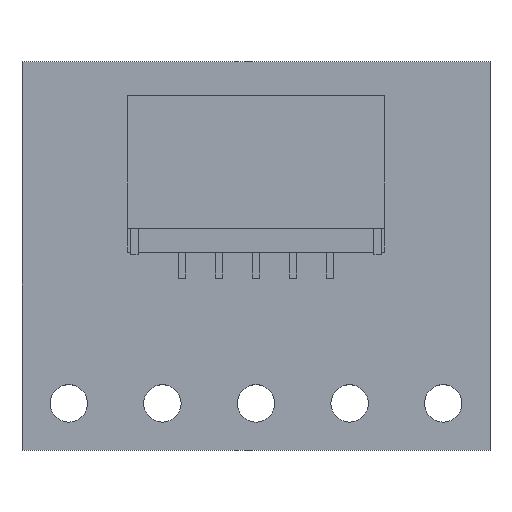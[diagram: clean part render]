
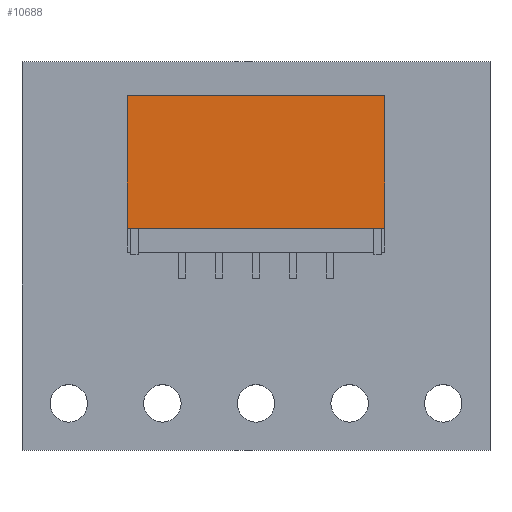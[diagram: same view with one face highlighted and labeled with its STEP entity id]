
A CAD part, top view. The second image highlights one B-rep face of the part: STEP entity #10688.
In plain terms, the highlighted planar face has unit normal (0, 0, 1).
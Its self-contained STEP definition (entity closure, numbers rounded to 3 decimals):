
#84 = EDGE_CURVE ( 'NONE', #12483, #3802, #1332, .T. ) ;
#209 = CARTESIAN_POINT ( 'NONE',  ( 190.81, 390.618, 3.986 ) ) ;
#526 = LINE ( 'NONE', #22327, #15548 ) ;
#1004 = LINE ( 'NONE', #22396, #13756 ) ;
#1332 = LINE ( 'NONE', #10167, #10306 ) ;
#2031 = CARTESIAN_POINT ( 'NONE',  ( 197.81, 387.018, 3.986 ) ) ;
#3802 = VERTEX_POINT ( 'NONE', #16617 ) ;
#3862 = VERTEX_POINT ( 'NONE', #6365 ) ;
#4050 = PLANE ( 'NONE',  #12131 ) ;
#4165 = CARTESIAN_POINT ( 'NONE',  ( 190.81, 390.618, 3.986 ) ) ;
#4183 = FACE_OUTER_BOUND ( 'NONE', #20205, .T. ) ;
#6365 = CARTESIAN_POINT ( 'NONE',  ( 190.81, 387.018, 3.986 ) ) ;
#7020 = EDGE_CURVE ( 'NONE', #22925, #3862, #28399, .T. ) ;
#10167 = CARTESIAN_POINT ( 'NONE',  ( 197.81, 390.618, 3.986 ) ) ;
#10306 = VECTOR ( 'NONE', #18977, 1000. ) ;
#10688 = ADVANCED_FACE ( 'NONE', ( #4183 ), #4050, .F. ) ;
#12131 = AXIS2_PLACEMENT_3D ( 'NONE', #19658, #23382, #12627 ) ;
#12483 = VERTEX_POINT ( 'NONE', #2031 ) ;
#12627 = DIRECTION ( 'NONE',  ( 1., 0., 0. ) ) ;
#13756 = VECTOR ( 'NONE', #22532, 1000. ) ;
#14618 = ORIENTED_EDGE ( 'NONE', *, *, #17007, .F. ) ;
#15548 = VECTOR ( 'NONE', #24611, 1000. ) ;
#16617 = CARTESIAN_POINT ( 'NONE',  ( 197.81, 390.618, 3.986 ) ) ;
#17007 = EDGE_CURVE ( 'NONE', #12483, #3862, #1004, .T. ) ;
#18977 = DIRECTION ( 'NONE',  ( 0., 1., 0. ) ) ;
#19169 = ORIENTED_EDGE ( 'NONE', *, *, #7020, .T. ) ;
#19351 = ORIENTED_EDGE ( 'NONE', *, *, #84, .T. ) ;
#19508 = ORIENTED_EDGE ( 'NONE', *, *, #19585, .T. ) ;
#19585 = EDGE_CURVE ( 'NONE', #3802, #22925, #526, .T. ) ;
#19658 = CARTESIAN_POINT ( 'NONE',  ( 194.31, 388.493, 3.986 ) ) ;
#20205 = EDGE_LOOP ( 'NONE', ( #14618, #19351, #19508, #19169 ) ) ;
#22327 = CARTESIAN_POINT ( 'NONE',  ( 197.81, 390.618, 3.986 ) ) ;
#22396 = CARTESIAN_POINT ( 'NONE',  ( 197.81, 387.018, 3.986 ) ) ;
#22532 = DIRECTION ( 'NONE',  ( -1., 0., 0. ) ) ;
#22925 = VERTEX_POINT ( 'NONE', #209 ) ;
#23228 = VECTOR ( 'NONE', #24064, 1000. ) ;
#23382 = DIRECTION ( 'NONE',  ( 0., 0., -1. ) ) ;
#24064 = DIRECTION ( 'NONE',  ( 0., -1., 0. ) ) ;
#24611 = DIRECTION ( 'NONE',  ( -1., 0., 0. ) ) ;
#28399 = LINE ( 'NONE', #4165, #23228 ) ;
